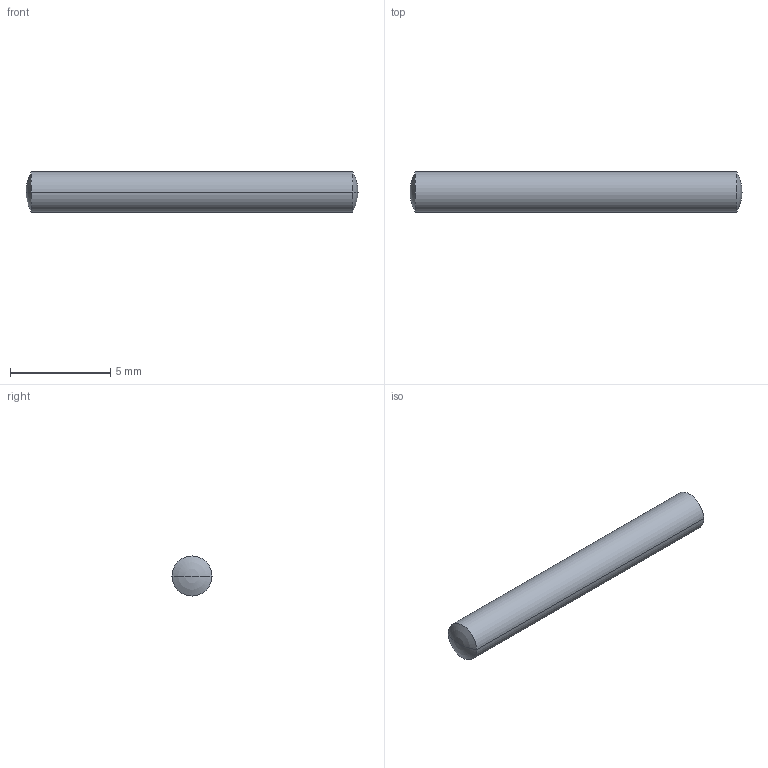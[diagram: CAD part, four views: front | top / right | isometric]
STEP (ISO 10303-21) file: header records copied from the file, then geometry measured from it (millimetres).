
FILE_DESCRIPTION((''),'2;1');
FILE_NAME('ZYL-STI_ISO_2338-2_M6X16_ST','2022-06-13T16:09:35',('H041970'),(''),'CREO PARAMETRIC BY PTC INC, 2021284','CREO PARAMETRIC BY PTC INC, 2021284','');
FILE_SCHEMA(('CONFIG_CONTROL_DESIGN'));
Length unit declared in the file: millimetre
Products named in the file (1): ZYL-STI_ISO_2338-2_M6X16_ST
Bounding box: 16.54 x 2 x 2 mm (x, y, z)
Volume: 51.1 mm3; surface area: 107.3 mm2
Topology: 1 solids, 1 shells, 6 faces, 15 edges, 9 vertices
Faces by surface type: sphere 4, cylinder 2
Entity records: 199 total; most frequent: DIRECTION 33, CARTESIAN_POINT 25, ORIENTED_EDGE 20, AXIS2_PLACEMENT_3D 15, EDGE_CURVE 10, CIRCLE 8, VERTEX_POINT 6, EDGE_LOOP 6
